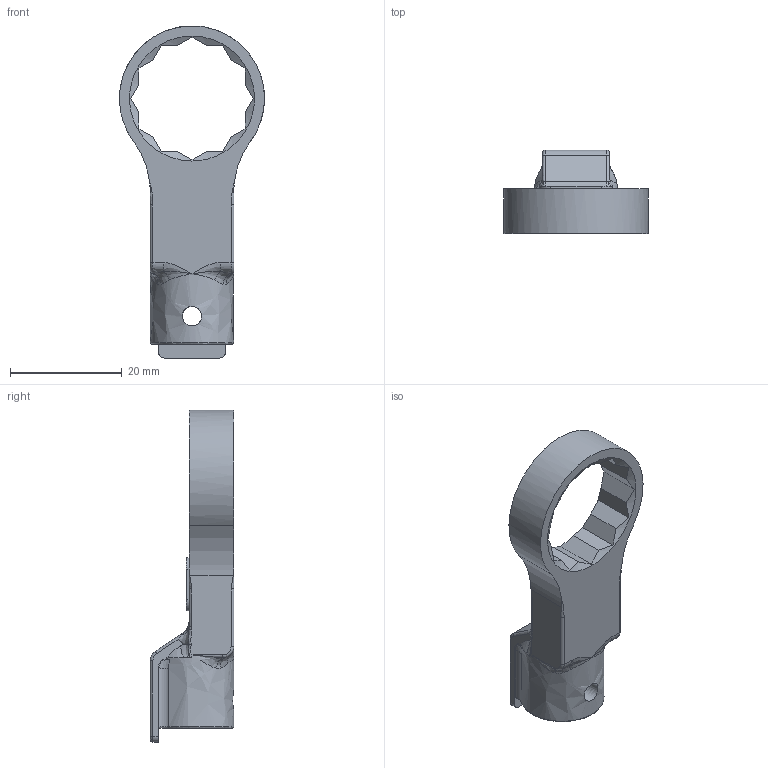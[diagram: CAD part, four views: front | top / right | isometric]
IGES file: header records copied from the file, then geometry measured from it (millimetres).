
Global section: file name: RH10DX19; native system: Autodesk Inventor 2016; preprocessor: unknown; author: Q600; date: 20151110.155151; units: millimetre
Bounding box: 25.99 x 15 x 59.5 mm (x, y, z)
Volume: 5525.4 mm3; surface area: 3708.3 mm2
Topology: 1 solids, 1 shells, 126 faces, 347 edges, 213 vertices
Faces by surface type: bspline 126
